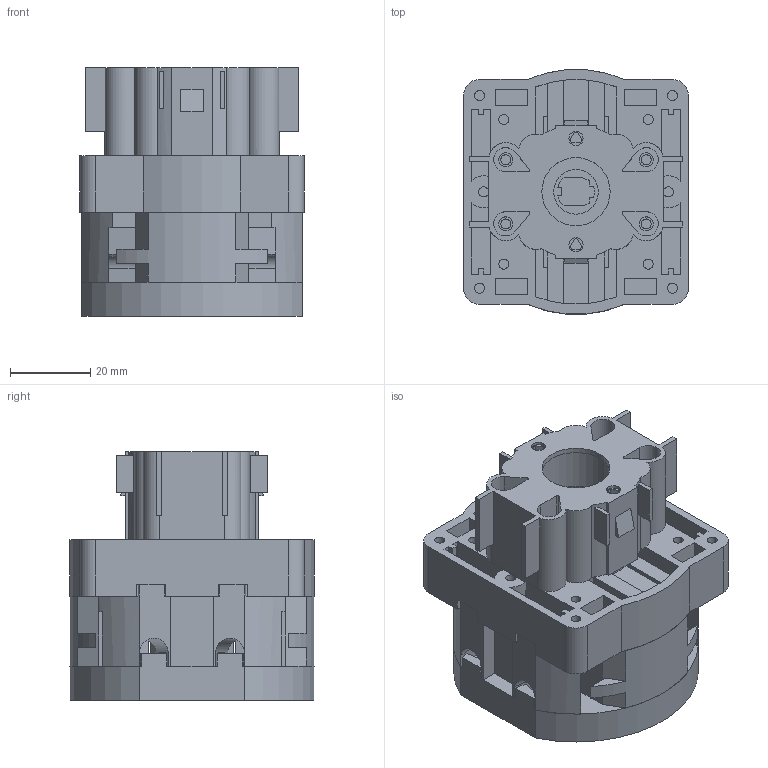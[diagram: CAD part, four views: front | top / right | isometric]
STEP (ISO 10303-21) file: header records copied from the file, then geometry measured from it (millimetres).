
FILE_DESCRIPTION((''),'2;1');
FILE_NAME('10007961756_ASM','2026-03-26T15:16:23',('ATBugliosi'),('Rockwell Automation'),'CREO PARAMETRIC BY PTC INC, 2022424','CREO PARAMETRIC BY PTC INC, 2022424','');
FILE_SCHEMA(('AUTOMOTIVE_DESIGN { 1 0 10303 214 1 1 1 1 }'));
Length unit declared in the file: millimetre
Products named in the file (9): 36_103_526; 36_103_531; 36_103_534; 36_103_525; 36_100_418; 36_105_091; 36_103_562; 36_102_974; 10007961756_ASM
Assembly tree (10 placements, depth 2):
  10007961756_ASM
    36_103_526
    36_103_531
    36_103_534
    36_103_525
    36_100_418  x2
    36_105_091  x2
    36_103_562
    36_102_974
Bounding box: 56 x 60.84 x 62 mm (x, y, z)
Volume: 92698.9 mm3; surface area: 57264.5 mm2
Topology: 10 solids, 10 shells, 685 faces, 1752 edges, 1164 vertices
Faces by surface type: plane 456, cylinder 221, cone 4, torus 4
Entity records: 25995 total; most frequent: CARTESIAN_POINT 3710, DIRECTION 3520, ORIENTED_EDGE 3396, PRESENTATION_STYLE_ASSIGNMENT 1706, STYLED_ITEM 1706, CURVE_STYLE 1698, EDGE_CURVE 1698, VECTOR 1182
